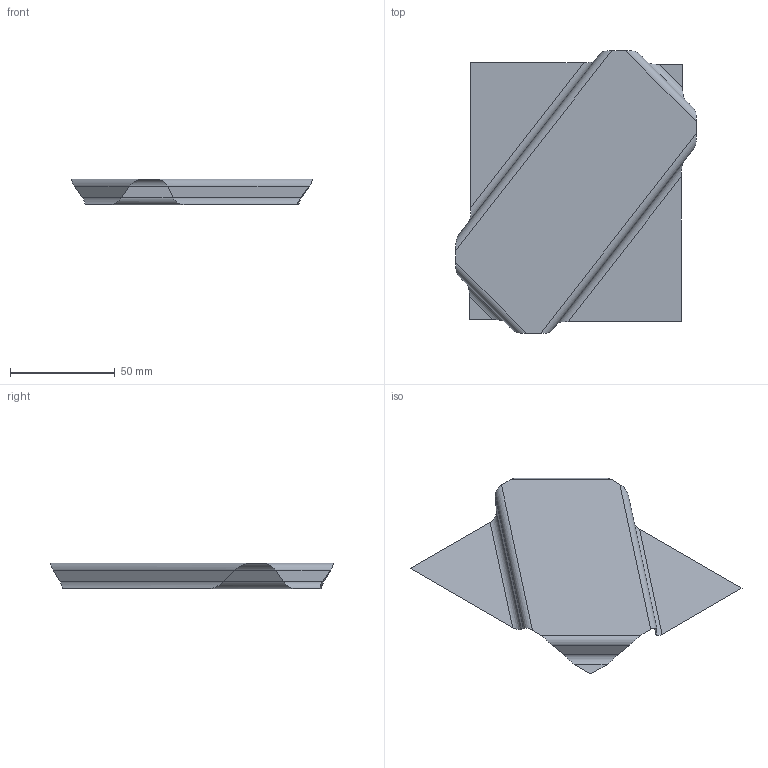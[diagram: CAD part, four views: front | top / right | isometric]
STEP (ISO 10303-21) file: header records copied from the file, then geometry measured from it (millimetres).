
FILE_DESCRIPTION(('CATIA V5 STEP Exchange'),'2;1');
FILE_NAME('C:\_Andres\UNIVERSIDAD\IQS\ASIGNATURAS\DAO\EXF\EXF-15161c\1original\Segura_Sánchez_Ej03-chapa_v25.stp','2016-03-04T16:56:14+00:00',('none'),('none'),'CATIA Version 5 Release 20 SP 1 (IN-10)','CATIA V5 STEP AP203','none');
FILE_SCHEMA(('CONFIG_CONTROL_DESIGN'));
Length unit declared in the file: millimetre
Products named in the file (1): Segura_Sánchez_Ej03-chapa_v25
Bounding box: 115.01 x 135.01 x 12.29 mm (x, y, z)
Surface area: 15572.5 mm2 (no closed solid volume)
Topology: 0 solids, 1 shells, 17 faces, 52 edges, 36 vertices
Faces by surface type: plane 9, cylinder 8
Entity records: 625 total; most frequent: CARTESIAN_POINT 200, ORIENTED_EDGE 68, DIRECTION 59, EDGE_CURVE 52, VERTEX_POINT 36, B_SPLINE_CURVE_WITH_KNOTS 29, VECTOR 23, LINE 23
